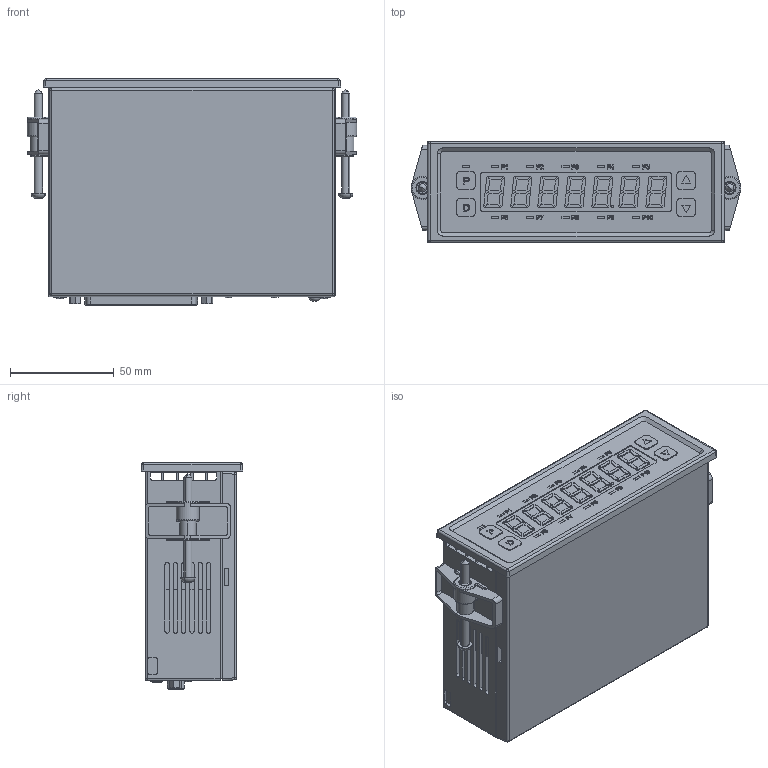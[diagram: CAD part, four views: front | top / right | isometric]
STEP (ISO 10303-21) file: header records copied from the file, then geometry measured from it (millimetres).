
FILE_DESCRIPTION (( 'STEP AP214' ), '1' );
FILE_NAME ('NAS_Assem2.STEP', '2024-08-19T03:58:58', ( '' ), ( '' ), 'SwSTEP 2.0', 'SolidWorks 2023', '' );
FILE_SCHEMA (( 'AUTOMOTIVE_DESIGN' ));
Length unit declared in the file: millimetre
Products named in the file (16): オムロンXW4A-03C1-H1; M4x6.5インサートナット; ワッシャ M3; バインド頭Tap M3 X10 MM; バインド頭 M2.5 X6 MM; カウンタ_取付金具本体; SCREW M3 X6 MM; NAS_Assem1; SCREW M4 X50 MM; NAS_Part1; 8P_Pin; M3スプリングワッシャ_0.7mm厚; D SUB 37P female - FL37S7-K121 (FCT)_裏消し; カウンター取付金具Assem; D-Subコネクター取付スペーサー; NAS_Assem2
Assembly tree (20 placements, depth 3):
  NAS_Assem2
    NAS_Assem1
      NAS_Part1
      8P_Pin
      オムロンXW4A-03C1-H1
      ワッシャ M3
      SCREW M3 X6 MM
      バインド頭 M2.5 X6 MM  x2
      バインド頭Tap M3 X10 MM  x2
      M3スプリングワッシャ_0.7mm厚
      D-Subコネクター取付スペーサー  x2
      D SUB 37P female - FL37S7-K121 (FCT)_裏消し
    SCREW M4 X50 MM  x2
    カウンター取付金具Assem  x2
      カウンタ_取付金具本体
      M4x6.5インサートナット
Bounding box: 158.6 x 49 x 109 mm (x, y, z)
Volume: 475878.1 mm3; surface area: 134995.8 mm2
Topology: 21 solids, 21 shells, 2706 faces, 6956 edges, 4560 vertices
Faces by surface type: plane 1535, bspline 553, cylinder 403, cone 133, torus 56, sphere 26
Entity records: 77506 total; most frequent: CARTESIAN_POINT 22886, ORIENTED_EDGE 12030, DIRECTION 9559, EDGE_CURVE 6015, VERTEX_POINT 3946, VECTOR 3917, LINE 3917, AXIS2_PLACEMENT_3D 2821
